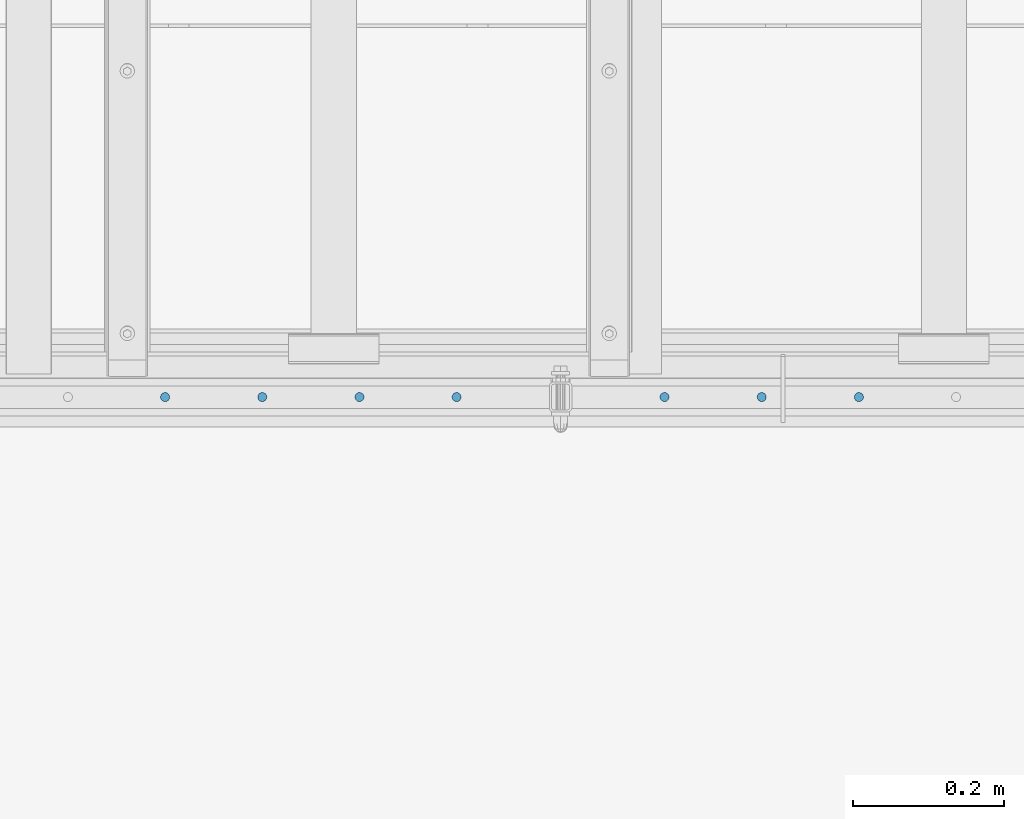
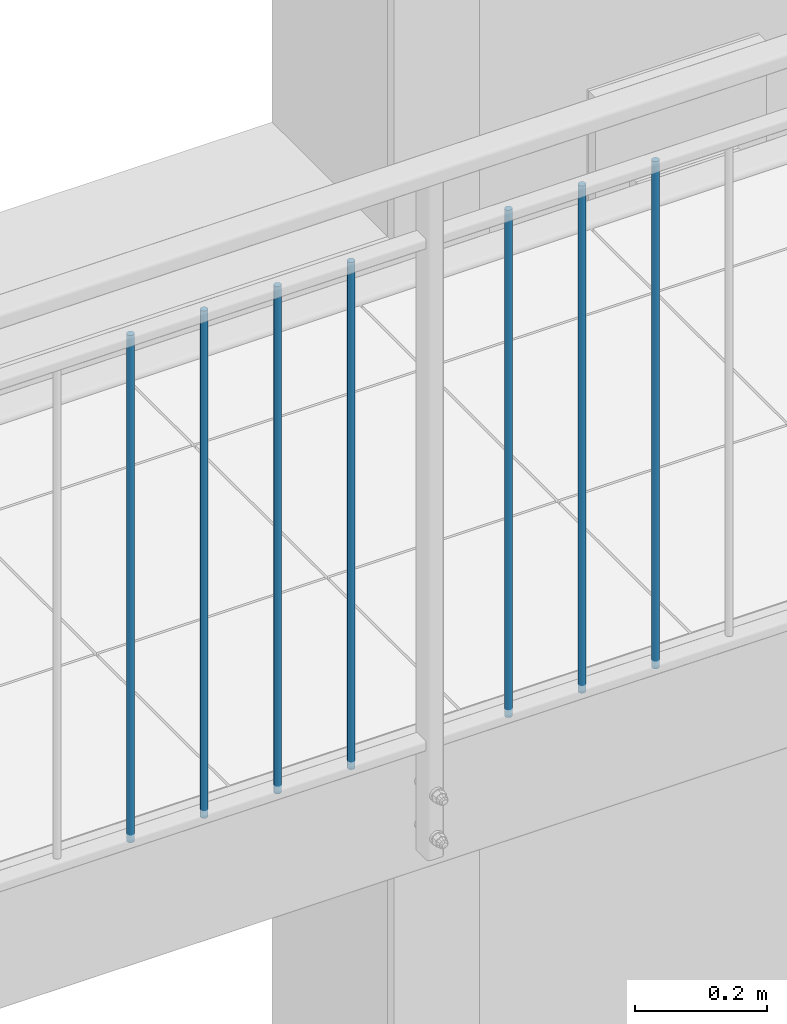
# One storey, part 24 of 162: 7 columns.
"""IFC2X3 building model written with IfcOpenShell, lengths in millimetres."""

from ifc_helpers import new_model, entity, si_unit, converted_unit, frame, origin, origin_with_axes, origin_2d, place, context, project, spatial, circle, extrude, material, element, save


model = new_model("IFC2X3")

# Units and contexts
model_context = context("Model", 3, precision=1e-09, world=origin_with_axes())
ifc_project = project(units=[si_unit("LENGTHUNIT", "METRE", prefix="MILLI"), si_unit("AREAUNIT", "SQUARE_METRE"), si_unit("VOLUMEUNIT", "CUBIC_METRE"), converted_unit("PLANEANGLEUNIT", "DEGREE", entity("IfcPlaneAngleMeasure", 0.01745329), si_unit("PLANEANGLEUNIT", "RADIAN"), dimensions=[0, 0, 0, 0, 0, 0, 0])], contexts=[model_context])

# Site, building, storey
site_placement = place(None, origin_with_axes())
site = spatial("IfcSite", under=ifc_project, at=site_placement, Name="Hermannstra?e 1a, 60318 Frankfurt", CompositionType="ELEMENT")
building_placement = place(site_placement, origin_with_axes())
building = spatial("IfcBuilding", under=site, at=building_placement, Name="Struktur 1", CompositionType="ELEMENT")
storey_placement = place(building_placement, origin_with_axes())
storey = spatial("IfcBuildingStorey", under=building, at=storey_placement, Name="Default Storey", CompositionType="ELEMENT", Elevation=0.0)

# Columns
ifc_material = material(Name="S235JR")
for number, where, z_axis, x_axis in (
    (1, (3918.880793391, 1515.609373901, 11504.999), (0.0, 0.0, -1.0), (1.0, 0.0, 0.0)),
    (2, (4047.737936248, 1515.609373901, 11504.999), (0.0, 0.0, -1.0), (1.0, 0.0, 0.0)),
    (3, (4176.595079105, 1515.609373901, 11504.999), (0.0, 0.0, -1.0), (1.0, 0.0, 0.0)),
    (4, (4305.452221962, 1515.609373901, 11504.999), (0.0, 0.0, -1.0), (1.0, 0.0, 0.0)),
    (5, (4581.166507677, 1515.609373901, 11504.999), (0.0, 0.0, -1.0), (1.0, 0.0, 0.0)),
    (6, (4710.023650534, 1515.609373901, 11504.999), (0.0, 0.0, -1.0), (1.0, 0.0, 0.0)),
    (7, (4838.880793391, 1515.609373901, 11504.999), (0.0, 0.0, -1.0), (1.0, 0.0, 0.0)),
):
    element("IfcColumn", number, at=place(None, frame(where, z_axis=z_axis, x_axis=x_axis)), inside=storey, material=ifc_material, Name="-", ObjectType="-", context=model_context, shape_type="SweptSolid", body=[
        extrude(circle(Radius=6.0, at=origin_2d()), origin(), (0.0, 0.0, -1.0), 940.0),
    ])

save(model, "model.ifc")
